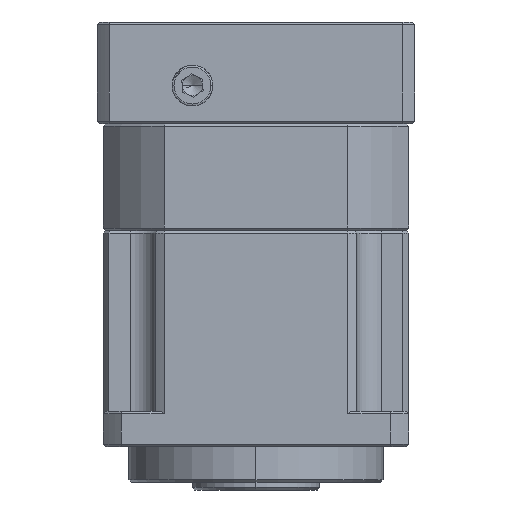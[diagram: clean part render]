
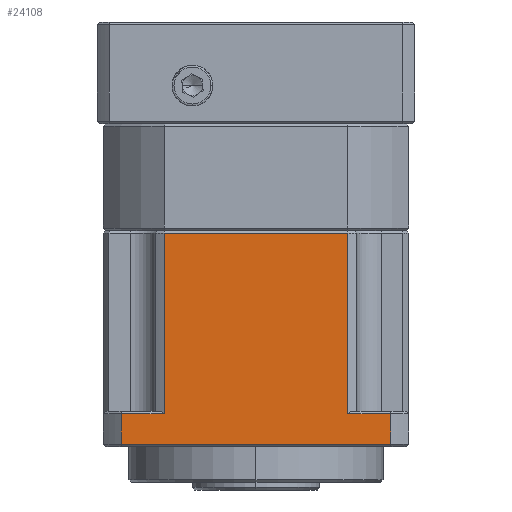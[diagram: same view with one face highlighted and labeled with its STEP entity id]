
A CAD part, left-side view. The second image highlights one B-rep face of the part: STEP entity #24108.
In plain terms, the highlighted planar face has unit normal (-1, 0, 0).
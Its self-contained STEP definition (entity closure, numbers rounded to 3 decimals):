
#661 = VERTEX_POINT ( 'NONE', #40065 ) ;
#1010 = VERTEX_POINT ( 'NONE', #57410 ) ;
#1153 = VECTOR ( 'NONE', #59786, 1000. ) ;
#1550 = VERTEX_POINT ( 'NONE', #17518 ) ;
#1679 = CARTESIAN_POINT ( 'NONE',  ( -55.202, 18.066, -24.88 ) ) ;
#1754 = VECTOR ( 'NONE', #55784, 1000. ) ;
#4881 = VECTOR ( 'NONE', #33134, 1000. ) ;
#9377 = EDGE_CURVE ( 'NONE', #68120, #1550, #63289, .T. ) ;
#10813 = EDGE_CURVE ( 'NONE', #91419, #34820, #41293, .T. ) ;
#11294 = VECTOR ( 'NONE', #92833, 1000. ) ;
#11733 = VECTOR ( 'NONE', #77062, 1000. ) ;
#12098 = FACE_OUTER_BOUND ( 'NONE', #83925, .T. ) ;
#12984 = DIRECTION ( 'NONE',  ( 1., 0., 0. ) ) ;
#15602 = LINE ( 'NONE', #90542, #43208 ) ;
#16314 = CARTESIAN_POINT ( 'NONE',  ( -55.202, 62.551, -66.38 ) ) ;
#17518 = CARTESIAN_POINT ( 'NONE',  ( -55.202, 62.551, -60.38 ) ) ;
#19190 = CARTESIAN_POINT ( 'NONE',  ( -55.202, 18.066, -60.38 ) ) ;
#24108 = ADVANCED_FACE ( 'NONE', ( #12098 ), #81506, .F. ) ;
#25155 = ORIENTED_EDGE ( 'NONE', *, *, #49451, .F. ) ;
#25268 = EDGE_CURVE ( 'NONE', #1010, #661, #79774, .T. ) ;
#28816 = VERTEX_POINT ( 'NONE', #96927 ) ;
#31072 = LINE ( 'NONE', #71970, #39626 ) ;
#33134 = DIRECTION ( 'NONE',  ( 0., 1., 0. ) ) ;
#33288 = EDGE_CURVE ( 'NONE', #34820, #1010, #46535, .T. ) ;
#34067 = ORIENTED_EDGE ( 'NONE', *, *, #25268, .F. ) ;
#34351 = DIRECTION ( 'NONE',  ( 0., 0., -1. ) ) ;
#34820 = VERTEX_POINT ( 'NONE', #19190 ) ;
#36933 = ORIENTED_EDGE ( 'NONE', *, *, #49464, .F. ) ;
#37611 = EDGE_CURVE ( 'NONE', #1550, #90047, #90211, .T. ) ;
#38935 = EDGE_CURVE ( 'NONE', #90047, #28816, #15602, .T. ) ;
#39626 = VECTOR ( 'NONE', #49886, 1000. ) ;
#40065 = CARTESIAN_POINT ( 'NONE',  ( -55.202, 9.636, -66.38 ) ) ;
#40401 = VECTOR ( 'NONE', #94780, 1000. ) ;
#40448 = CARTESIAN_POINT ( 'NONE',  ( -55.202, 18.066, -29.88 ) ) ;
#40738 = CARTESIAN_POINT ( 'NONE',  ( -55.202, 9.636, -29.88 ) ) ;
#41293 = LINE ( 'NONE', #40448, #1754 ) ;
#43208 = VECTOR ( 'NONE', #67844, 1000. ) ;
#44409 = CARTESIAN_POINT ( 'NONE',  ( -55.202, 62.551, -29.88 ) ) ;
#45761 = ORIENTED_EDGE ( 'NONE', *, *, #37611, .F. ) ;
#46535 = LINE ( 'NONE', #47345, #11733 ) ;
#47345 = CARTESIAN_POINT ( 'NONE',  ( -55.202, 6.094, -60.38 ) ) ;
#49451 = EDGE_CURVE ( 'NONE', #661, #68120, #69429, .T. ) ;
#49464 = EDGE_CURVE ( 'NONE', #28816, #91419, #31072, .T. ) ;
#49804 = ORIENTED_EDGE ( 'NONE', *, *, #9377, .F. ) ;
#49886 = DIRECTION ( 'NONE',  ( 0., -1., 0. ) ) ;
#54810 = CARTESIAN_POINT ( 'NONE',  ( -55.202, 6.094, -60.38 ) ) ;
#55784 = DIRECTION ( 'NONE',  ( 0., 0., -1. ) ) ;
#57410 = CARTESIAN_POINT ( 'NONE',  ( -55.202, 9.636, -60.38 ) ) ;
#59786 = DIRECTION ( 'NONE',  ( 0., 0., 1. ) ) ;
#63287 = CARTESIAN_POINT ( 'NONE',  ( -55.202, 6.094, -66.38 ) ) ;
#63289 = LINE ( 'NONE', #44409, #1153 ) ;
#67844 = DIRECTION ( 'NONE',  ( 0., 0., 1. ) ) ;
#68120 = VERTEX_POINT ( 'NONE', #16314 ) ;
#68369 = ORIENTED_EDGE ( 'NONE', *, *, #10813, .F. ) ;
#69100 = CARTESIAN_POINT ( 'NONE',  ( -55.202, 54.122, -60.38 ) ) ;
#69429 = LINE ( 'NONE', #63287, #4881 ) ;
#71970 = CARTESIAN_POINT ( 'NONE',  ( -55.202, 36.094, -24.88 ) ) ;
#72389 = ORIENTED_EDGE ( 'NONE', *, *, #33288, .F. ) ;
#77062 = DIRECTION ( 'NONE',  ( 0., -1., 0. ) ) ;
#79774 = LINE ( 'NONE', #40738, #40401 ) ;
#81190 = CARTESIAN_POINT ( 'NONE',  ( -55.202, 6.094, -29.88 ) ) ;
#81506 = PLANE ( 'NONE',  #90644 ) ;
#83925 = EDGE_LOOP ( 'NONE', ( #36933, #91729, #45761, #49804, #25155, #34067, #72389, #68369 ) ) ;
#90047 = VERTEX_POINT ( 'NONE', #69100 ) ;
#90211 = LINE ( 'NONE', #54810, #11294 ) ;
#90542 = CARTESIAN_POINT ( 'NONE',  ( -55.202, 54.122, -29.88 ) ) ;
#90644 = AXIS2_PLACEMENT_3D ( 'NONE', #81190, #12984, #34351 ) ;
#91419 = VERTEX_POINT ( 'NONE', #1679 ) ;
#91729 = ORIENTED_EDGE ( 'NONE', *, *, #38935, .F. ) ;
#92833 = DIRECTION ( 'NONE',  ( 0., -1., 0. ) ) ;
#94780 = DIRECTION ( 'NONE',  ( 0., 0., -1. ) ) ;
#96927 = CARTESIAN_POINT ( 'NONE',  ( -55.202, 54.122, -24.88 ) ) ;
